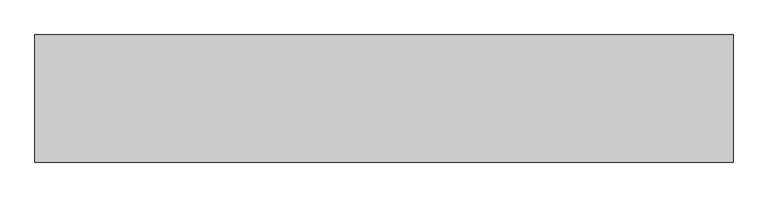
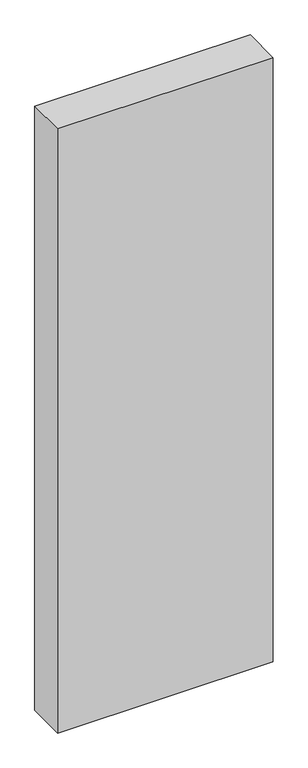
"""IFC4 building model written with IfcOpenShell, lengths in millimetres: geographic element geometry, Begrünung frei kletternd : Begrünung frei kletternd."""

from ifc_helpers import new_model, si_unit, origin, origin_with_axes, place, context, project, spatial, polyline, outline, extrude, source, transform, mapped, element, save


def geographic_element_ed2dfa5e(model_context):
    return source(origin(), model_context, "Body", "SweptSolid", [
        extrude(outline(polyline([(820.6394348, 0.4411732), (-821.1992595, 0.4411732), (-821.1992595, 300.4411732), (820.6394348, 300.4411732), (820.6394348, 0.4411732)])), origin_with_axes(), (0.0, 0.0, 1.0), 4861.7807301),
    ])


if __name__ == "__main__":
    model = new_model("IFC4")
    model_context = context("Model", 3, world=origin())
    ifc_project = project(units=[si_unit("LENGTHUNIT", "METRE", prefix="MILLI")], contexts=[model_context])
    site = spatial("IfcSite", under=ifc_project)
    building = spatial("IfcBuilding", under=site)
    placement = place(None, origin())
    geographic_element_shape = geographic_element_ed2dfa5e(model_context)
    element("IfcGeographicElement", 1, ObjectType="Begrünung frei kletternd : Begrünung frei kletternd", at=placement, inside=building, context=model_context, shape_type="MappedRepresentation", body=[
        mapped(geographic_element_shape, transform((0.0, 0.0, 0.0), x_axis=(1.0, 0.0, 0.0), y_axis=(0.0, 1.0, 0.0), z_axis=(0.0, 0.0, 1.0))),
    ])
    save(model, "model.ifc")
